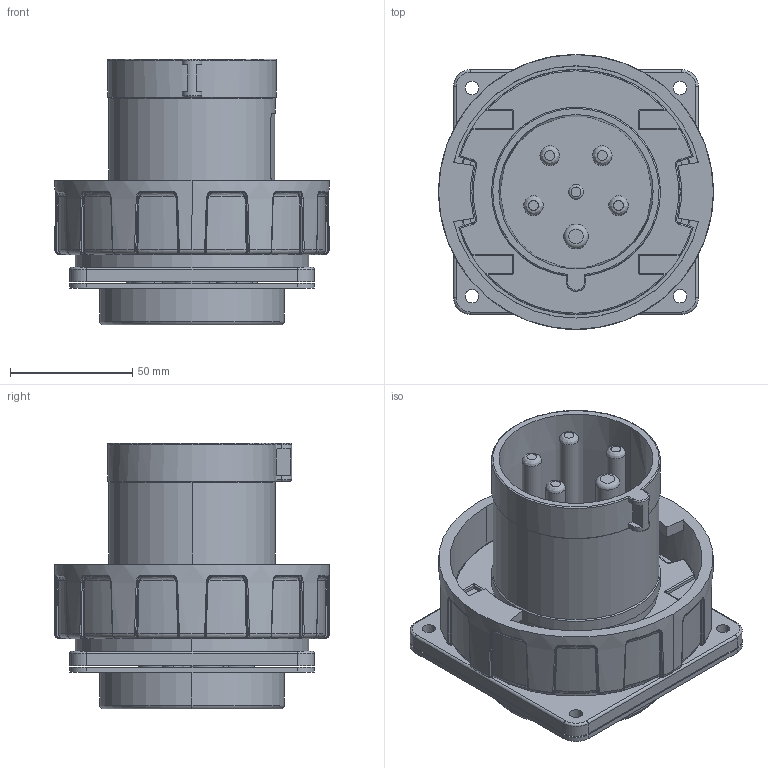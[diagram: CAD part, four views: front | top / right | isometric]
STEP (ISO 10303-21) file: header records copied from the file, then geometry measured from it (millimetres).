
FILE_DESCRIPTION(('FreeCAD Model'),'2;1');
FILE_NAME('Open CASCADE Shape Model','2026-02-04T11:24:28',(''),(''), 'Open CASCADE STEP processor 7.8','FreeCAD','Unknown');
FILE_SCHEMA(('AUTOMOTIVE_DESIGN { 1 0 10303 214 1 1 1 1 }'));
Length unit declared in the file: millimetre
Products named in the file (13): TL3L63653; Base interna; Encaixe tomada; Proteção terminais; Base externa; Tomada; Pino Neutro; Pino L3; Pino Terra; Pino L2; Pino L1; Pino guia; Terminais
Assembly tree (12 placements, depth 2):
  TL3L63653
    Base interna
    Encaixe tomada
    Proteção terminais
    Base externa
    Tomada
    Pino Neutro
    Pino L3
    Pino Terra
    Pino L2
    Pino L1
    Pino guia
    Terminais
Bounding box: 112.2 x 112.2 x 108.5 mm (x, y, z)
Volume: 243277.2 mm3; surface area: 161881.8 mm2
Topology: 12 solids, 12 shells, 1283 faces, 3361 edges, 2129 vertices
Faces by surface type: plane 631, cylinder 326, bspline 176, torus 88, cone 52, sphere 8, extrusion 2
Full cylindrical faces by diameter (mm): 5.5 x4, 6 x1, 8 x4, 10 x1, 11.5 x2, 14.5 x1, 74 x1, 78 x1
Entity records: 47481 total; most frequent: CARTESIAN_POINT 17059, ORIENTED_EDGE 6674, DIRECTION 5683, EDGE_CURVE 3337, VERTEX_POINT 2129, AXIS2_PLACEMENT_3D 1950, VECTOR 1783, LINE 1781
